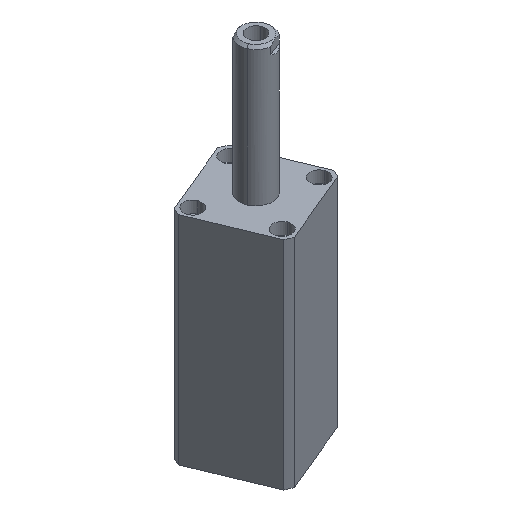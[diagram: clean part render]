
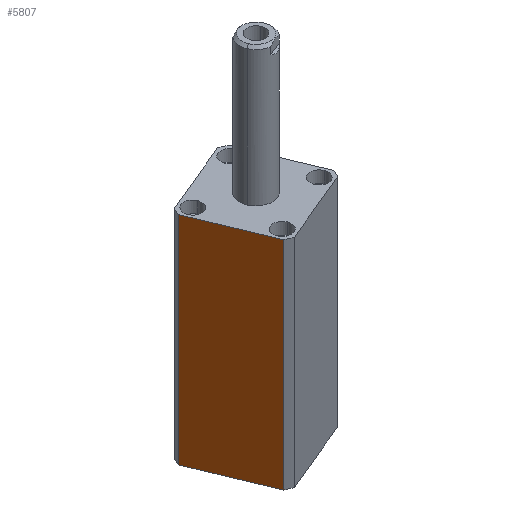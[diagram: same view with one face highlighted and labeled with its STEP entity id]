
A CAD part, isometric view. The second image highlights one B-rep face of the part: STEP entity #5807.
In plain terms, the highlighted planar face has unit normal (-0.924, -0.383, 0) as drawn and (1, 0, 0) by its records, which use the part's own axes.
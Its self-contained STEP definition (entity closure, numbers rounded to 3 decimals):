
#69 = VECTOR ( 'NONE', #749, 1000. ) ;
#384 = PLANE ( 'NONE',  #7122 ) ;
#417 = VECTOR ( 'NONE', #10360, 1000. ) ;
#508 = LINE ( 'NONE', #4435, #6950 ) ;
#749 = DIRECTION ( 'NONE',  ( 0., 1., 0. ) ) ;
#1215 = DIRECTION ( 'NONE',  ( 0., 0., -1. ) ) ;
#1334 = VECTOR ( 'NONE', #4875, 1000. ) ;
#1536 = VERTEX_POINT ( 'NONE', #8797 ) ;
#1665 = ORIENTED_EDGE ( 'NONE', *, *, #2169, .F. ) ;
#2016 = DIRECTION ( 'NONE',  ( -1., 0., 0. ) ) ;
#2169 = EDGE_CURVE ( 'NONE', #1536, #9314, #2555, .T. ) ;
#2225 = LINE ( 'NONE', #9552, #69 ) ;
#2350 = CARTESIAN_POINT ( 'NONE',  ( 35., 35., 165. ) ) ;
#2555 = LINE ( 'NONE', #2350, #417 ) ;
#4217 = EDGE_LOOP ( 'NONE', ( #5187, #9970, #6941, #1665 ) ) ;
#4435 = CARTESIAN_POINT ( 'NONE',  ( 35., 30.615, -135. ) ) ;
#4724 = CARTESIAN_POINT ( 'NONE',  ( 35., 30.615, 0. ) ) ;
#4875 = DIRECTION ( 'NONE',  ( 0., 0., 1. ) ) ;
#4906 = CARTESIAN_POINT ( 'NONE',  ( 35., -30.615, -135. ) ) ;
#5187 = ORIENTED_EDGE ( 'NONE', *, *, #8665, .F. ) ;
#5332 = VERTEX_POINT ( 'NONE', #4724 ) ;
#5807 = ADVANCED_FACE ( 'NONE', ( #9427 ), #384, .F. ) ;
#5877 = LINE ( 'NONE', #4906, #1334 ) ;
#5929 = VERTEX_POINT ( 'NONE', #6947 ) ;
#6047 = CARTESIAN_POINT ( 'NONE',  ( 35., 35., 165. ) ) ;
#6310 = EDGE_CURVE ( 'NONE', #9314, #5332, #508, .T. ) ;
#6741 = EDGE_CURVE ( 'NONE', #5929, #5332, #2225, .T. ) ;
#6941 = ORIENTED_EDGE ( 'NONE', *, *, #6310, .F. ) ;
#6947 = CARTESIAN_POINT ( 'NONE',  ( 35., -30.615, 0. ) ) ;
#6950 = VECTOR ( 'NONE', #1215, 1000. ) ;
#7122 = AXIS2_PLACEMENT_3D ( 'NONE', #6047, #2016, #7644 ) ;
#7644 = DIRECTION ( 'NONE',  ( 0., -1., 0. ) ) ;
#8665 = EDGE_CURVE ( 'NONE', #5929, #1536, #5877, .T. ) ;
#8753 = CARTESIAN_POINT ( 'NONE',  ( 35., 30.615, 165. ) ) ;
#8797 = CARTESIAN_POINT ( 'NONE',  ( 35., -30.615, 165. ) ) ;
#9314 = VERTEX_POINT ( 'NONE', #8753 ) ;
#9427 = FACE_OUTER_BOUND ( 'NONE', #4217, .T. ) ;
#9552 = CARTESIAN_POINT ( 'NONE',  ( 35., 35., 0. ) ) ;
#9970 = ORIENTED_EDGE ( 'NONE', *, *, #6741, .T. ) ;
#10360 = DIRECTION ( 'NONE',  ( 0., 1., 0. ) ) ;
